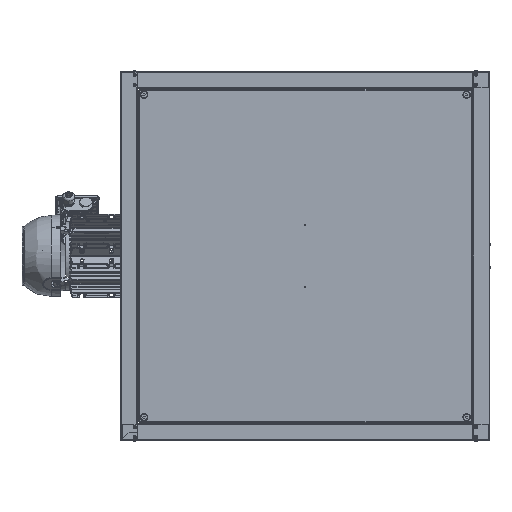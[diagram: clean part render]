
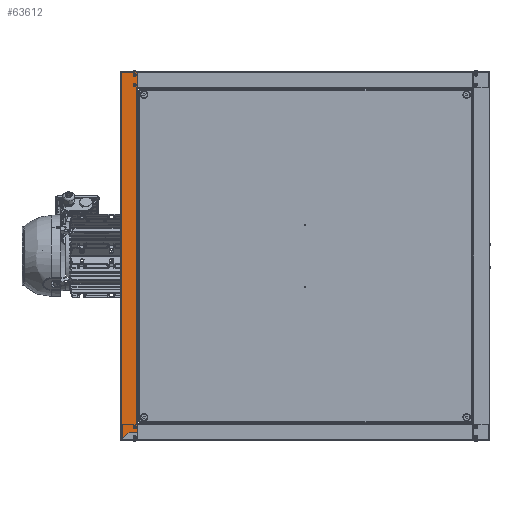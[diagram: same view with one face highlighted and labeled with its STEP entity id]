
A CAD part, left-side view. The second image highlights one B-rep face of the part: STEP entity #63612.
In plain terms, the highlighted planar face has unit normal (-1, 0, 0).
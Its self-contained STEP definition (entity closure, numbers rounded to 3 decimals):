
#243 = VERTEX_POINT ( 'NONE', #69898 ) ;
#1142 = VECTOR ( 'NONE', #6679, 1000. ) ;
#2705 = VERTEX_POINT ( 'NONE', #30170 ) ;
#4199 = CARTESIAN_POINT ( 'NONE',  ( -450., 416., -417.2 ) ) ;
#4434 = CARTESIAN_POINT ( 'NONE',  ( -450., 410.2, -429.1 ) ) ;
#4500 = CIRCLE ( 'NONE', #102730, 2.1 ) ;
#4574 = VECTOR ( 'NONE', #103201, 1000. ) ;
#6679 = DIRECTION ( 'NONE',  ( 0., 0.707, -0.707 ) ) ;
#7971 = LINE ( 'NONE', #139293, #33723 ) ;
#9032 = AXIS2_PLACEMENT_3D ( 'NONE', #51136, #127582, #62141 ) ;
#9875 = EDGE_CURVE ( 'NONE', #37116, #22802, #71394, .T. ) ;
#9940 = VECTOR ( 'NONE', #96948, 1000. ) ;
#10351 = EDGE_CURVE ( 'NONE', #2705, #73663, #37124, .T. ) ;
#10952 = CARTESIAN_POINT ( 'NONE',  ( -450., 448., -447.35 ) ) ;
#11136 = LINE ( 'NONE', #109827, #124023 ) ;
#11148 = ORIENTED_EDGE ( 'NONE', *, *, #9875, .F. ) ;
#12612 = VERTEX_POINT ( 'NONE', #35053 ) ;
#16546 = ORIENTED_EDGE ( 'NONE', *, *, #54992, .F. ) ;
#17574 = CARTESIAN_POINT ( 'NONE',  ( -450., 450., 448.95 ) ) ;
#17821 = EDGE_CURVE ( 'NONE', #12612, #102647, #11136, .T. ) ;
#20413 = CARTESIAN_POINT ( 'NONE',  ( -450., 448., 448.95 ) ) ;
#21695 = CIRCLE ( 'NONE', #75114, 2.1 ) ;
#22602 = ORIENTED_EDGE ( 'NONE', *, *, #10351, .T. ) ;
#22802 = VERTEX_POINT ( 'NONE', #75236 ) ;
#23174 = VECTOR ( 'NONE', #99725, 1000. ) ;
#25105 = DIRECTION ( 'NONE',  ( -1., 0., 0. ) ) ;
#25576 = ORIENTED_EDGE ( 'NONE', *, *, #67162, .F. ) ;
#27628 = VERTEX_POINT ( 'NONE', #46377 ) ;
#28552 = CARTESIAN_POINT ( 'NONE',  ( -450., 413.9, 441.7 ) ) ;
#28724 = DIRECTION ( 'NONE',  ( 0., 1., 0. ) ) ;
#29285 = DIRECTION ( 'NONE',  ( 0., 0., 1. ) ) ;
#30170 = CARTESIAN_POINT ( 'NONE',  ( -450., 410.2, -429.1 ) ) ;
#32713 = VECTOR ( 'NONE', #59872, 1000. ) ;
#33723 = VECTOR ( 'NONE', #106763, 1000. ) ;
#33736 = LINE ( 'NONE', #126691, #1142 ) ;
#34905 = VECTOR ( 'NONE', #29285, 1000. ) ;
#35053 = CARTESIAN_POINT ( 'NONE',  ( -450., 410.7, 411.65 ) ) ;
#37116 = VERTEX_POINT ( 'NONE', #98065 ) ;
#37124 = LINE ( 'NONE', #103946, #4574 ) ;
#39641 = DIRECTION ( 'NONE',  ( 0., 1., 0. ) ) ;
#39798 = CARTESIAN_POINT ( 'NONE',  ( -450., 410.7, -410.05 ) ) ;
#40465 = ORIENTED_EDGE ( 'NONE', *, *, #17821, .T. ) ;
#41765 = DIRECTION ( 'NONE',  ( -1., 0., 0. ) ) ;
#42589 = FACE_BOUND ( 'NONE', #90319, .T. ) ;
#46377 = CARTESIAN_POINT ( 'NONE',  ( -450., 418.1, 441.7 ) ) ;
#47172 = CARTESIAN_POINT ( 'NONE',  ( -450., 410.2, 411.65 ) ) ;
#47966 = VERTEX_POINT ( 'NONE', #131554 ) ;
#48897 = AXIS2_PLACEMENT_3D ( 'NONE', #4199, #80700, #64062 ) ;
#49376 = CARTESIAN_POINT ( 'NONE',  ( -450., 416., -417.2 ) ) ;
#49460 = CIRCLE ( 'NONE', #49692, 2.1 ) ;
#49692 = AXIS2_PLACEMENT_3D ( 'NONE', #107222, #41765, #118188 ) ;
#50136 = DIRECTION ( 'NONE',  ( 1., 0., 0. ) ) ;
#51136 = CARTESIAN_POINT ( 'NONE',  ( -450., 416., 441.7 ) ) ;
#51815 = CIRCLE ( 'NONE', #69668, 2.1 ) ;
#52305 = LINE ( 'NONE', #131764, #23174 ) ;
#53189 = VERTEX_POINT ( 'NONE', #10952 ) ;
#54992 = EDGE_CURVE ( 'NONE', #47966, #53189, #33736, .T. ) ;
#55341 = CIRCLE ( 'NONE', #9032, 2.1 ) ;
#56584 = EDGE_CURVE ( 'NONE', #126631, #243, #4500, .T. ) ;
#59843 = ORIENTED_EDGE ( 'NONE', *, *, #66721, .T. ) ;
#59872 = DIRECTION ( 'NONE',  ( 0., -1., 0. ) ) ;
#60352 = DIRECTION ( 'NONE',  ( 0., -1., 0. ) ) ;
#62020 = ORIENTED_EDGE ( 'NONE', *, *, #127376, .F. ) ;
#62141 = DIRECTION ( 'NONE',  ( 0., -1., 0. ) ) ;
#63612 = ADVANCED_FACE ( 'NONE', ( #100702, #97256, #42589, #71588 ), #105131, .F. ) ;
#63825 = CARTESIAN_POINT ( 'NONE',  ( -450., 410.7, -410.05 ) ) ;
#63969 = LINE ( 'NONE', #137853, #34905 ) ;
#64062 = DIRECTION ( 'NONE',  ( 0., -1., 0. ) ) ;
#64564 = ORIENTED_EDGE ( 'NONE', *, *, #71919, .F. ) ;
#64757 = DIRECTION ( 'NONE',  ( -1., 0., 0. ) ) ;
#65048 = ORIENTED_EDGE ( 'NONE', *, *, #65072, .T. ) ;
#65072 = EDGE_CURVE ( 'NONE', #131511, #110973, #52305, .T. ) ;
#66721 = EDGE_CURVE ( 'NONE', #102647, #131511, #63969, .T. ) ;
#67162 = EDGE_CURVE ( 'NONE', #88286, #27628, #55341, .T. ) ;
#69668 = AXIS2_PLACEMENT_3D ( 'NONE', #49376, #125810, #60352 ) ;
#69898 = CARTESIAN_POINT ( 'NONE',  ( -450., 418.1, 417.2 ) ) ;
#70326 = EDGE_LOOP ( 'NONE', ( #135248, #64564 ) ) ;
#71394 = CIRCLE ( 'NONE', #48897, 2.1 ) ;
#71588 = FACE_OUTER_BOUND ( 'NONE', #89812, .T. ) ;
#71919 = EDGE_CURVE ( 'NONE', #243, #126631, #49460, .T. ) ;
#73663 = VERTEX_POINT ( 'NONE', #119583 ) ;
#74510 = CARTESIAN_POINT ( 'NONE',  ( -450., 410.2, 448. ) ) ;
#75114 = AXIS2_PLACEMENT_3D ( 'NONE', #90657, #25105, #101657 ) ;
#75236 = CARTESIAN_POINT ( 'NONE',  ( -450., 413.9, -417.2 ) ) ;
#75681 = EDGE_CURVE ( 'NONE', #110973, #53189, #133157, .T. ) ;
#77799 = DIRECTION ( 'NONE',  ( 0., -1., 0. ) ) ;
#80229 = LINE ( 'NONE', #39798, #105891 ) ;
#80700 = DIRECTION ( 'NONE',  ( -1., 0., 0. ) ) ;
#81399 = CARTESIAN_POINT ( 'NONE',  ( -450., 448., 448. ) ) ;
#84035 = ORIENTED_EDGE ( 'NONE', *, *, #102634, .F. ) ;
#88286 = VERTEX_POINT ( 'NONE', #28552 ) ;
#89812 = EDGE_LOOP ( 'NONE', ( #65048, #108992, #16546, #141578, #22602, #133844, #62020, #40465, #59843 ) ) ;
#90319 = EDGE_LOOP ( 'NONE', ( #25576, #84035 ) ) ;
#90657 = CARTESIAN_POINT ( 'NONE',  ( -450., 416., 441.7 ) ) ;
#90856 = LINE ( 'NONE', #4434, #32713 ) ;
#92222 = AXIS2_PLACEMENT_3D ( 'NONE', #17574, #50136, #39641 ) ;
#96948 = DIRECTION ( 'NONE',  ( 0., 0., -1. ) ) ;
#97152 = ORIENTED_EDGE ( 'NONE', *, *, #135697, .F. ) ;
#97256 = FACE_BOUND ( 'NONE', #70326, .T. ) ;
#98065 = CARTESIAN_POINT ( 'NONE',  ( -450., 418.1, -417.2 ) ) ;
#99725 = DIRECTION ( 'NONE',  ( 0., 1., 0. ) ) ;
#100702 = FACE_BOUND ( 'NONE', #124572, .T. ) ;
#101657 = DIRECTION ( 'NONE',  ( 0., -1., 0. ) ) ;
#102634 = EDGE_CURVE ( 'NONE', #27628, #88286, #21695, .T. ) ;
#102647 = VERTEX_POINT ( 'NONE', #47172 ) ;
#102730 = AXIS2_PLACEMENT_3D ( 'NONE', #130234, #64757, #141289 ) ;
#103201 = DIRECTION ( 'NONE',  ( 0., 0., 1. ) ) ;
#103946 = CARTESIAN_POINT ( 'NONE',  ( -450., 410.2, -410.05 ) ) ;
#105131 = PLANE ( 'NONE',  #92222 ) ;
#105891 = VECTOR ( 'NONE', #28724, 1000. ) ;
#106763 = DIRECTION ( 'NONE',  ( 0., 0., -1. ) ) ;
#107222 = CARTESIAN_POINT ( 'NONE',  ( -450., 416., 417.2 ) ) ;
#108992 = ORIENTED_EDGE ( 'NONE', *, *, #75681, .T. ) ;
#109827 = CARTESIAN_POINT ( 'NONE',  ( -450., 410.7, 411.65 ) ) ;
#110973 = VERTEX_POINT ( 'NONE', #81399 ) ;
#111107 = EDGE_CURVE ( 'NONE', #73663, #133241, #80229, .T. ) ;
#118188 = DIRECTION ( 'NONE',  ( 0., -1., 0. ) ) ;
#119583 = CARTESIAN_POINT ( 'NONE',  ( -450., 410.2, -410.05 ) ) ;
#120267 = EDGE_CURVE ( 'NONE', #47966, #2705, #90856, .T. ) ;
#120871 = CARTESIAN_POINT ( 'NONE',  ( -450., 413.9, 417.2 ) ) ;
#124023 = VECTOR ( 'NONE', #77799, 1000. ) ;
#124572 = EDGE_LOOP ( 'NONE', ( #97152, #11148 ) ) ;
#125810 = DIRECTION ( 'NONE',  ( -1., 0., 0. ) ) ;
#126631 = VERTEX_POINT ( 'NONE', #120871 ) ;
#126691 = CARTESIAN_POINT ( 'NONE',  ( -450., 449.1, -448.45 ) ) ;
#127376 = EDGE_CURVE ( 'NONE', #12612, #133241, #7971, .T. ) ;
#127582 = DIRECTION ( 'NONE',  ( -1., 0., 0. ) ) ;
#130234 = CARTESIAN_POINT ( 'NONE',  ( -450., 416., 417.2 ) ) ;
#131511 = VERTEX_POINT ( 'NONE', #74510 ) ;
#131554 = CARTESIAN_POINT ( 'NONE',  ( -450., 429.75, -429.1 ) ) ;
#131764 = CARTESIAN_POINT ( 'NONE',  ( -450., 410.2, 448. ) ) ;
#133157 = LINE ( 'NONE', #20413, #9940 ) ;
#133241 = VERTEX_POINT ( 'NONE', #63825 ) ;
#133844 = ORIENTED_EDGE ( 'NONE', *, *, #111107, .T. ) ;
#135248 = ORIENTED_EDGE ( 'NONE', *, *, #56584, .F. ) ;
#135697 = EDGE_CURVE ( 'NONE', #22802, #37116, #51815, .T. ) ;
#137853 = CARTESIAN_POINT ( 'NONE',  ( -450., 410.2, 411.65 ) ) ;
#139293 = CARTESIAN_POINT ( 'NONE',  ( -450., 410.7, 448.95 ) ) ;
#141289 = DIRECTION ( 'NONE',  ( 0., -1., 0. ) ) ;
#141578 = ORIENTED_EDGE ( 'NONE', *, *, #120267, .T. ) ;
